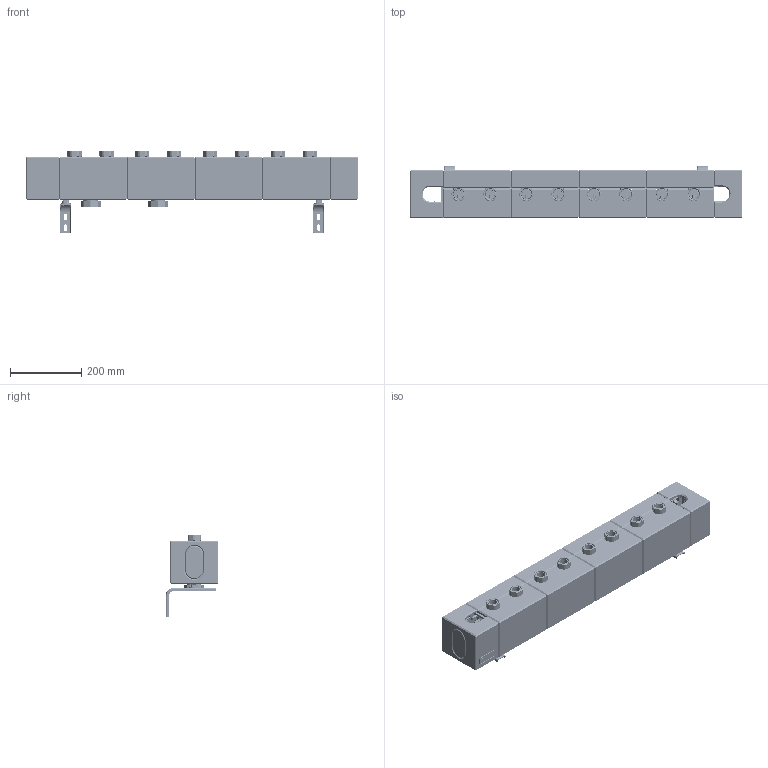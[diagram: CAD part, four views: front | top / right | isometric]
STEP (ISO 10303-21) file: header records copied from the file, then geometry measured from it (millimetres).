
FILE_DESCRIPTION (( 'STEP AP214' ), '1' );
FILE_NAME ('HSM_ProFusion_90-4_Multifunkcyjny_rozdzielacz_79604_0_3D_AFRISO.STEP', '2025-11-18T13:45:04', ( '' ), ( '' ), 'SwSTEP 2.0', 'SolidWorks 2023', '' );
FILE_SCHEMA (( 'AUTOMOTIVE_DESIGN' ));
Length unit declared in the file: millimetre
Products named in the file (43): Translationsteil_0_AEI Logo; 05 01 001272_Segment B-A HSM 90; 05 01 000794_Tr_X_E4gerplatte wei_X_DF LOGO AFRISO; 05 00 52 51_Einsteckstutzen G1 _X_DCM HSM; 05 01 000684_Tr_X_E4gerplatte neutral wei_X_DF (60x2_0); 907380 8020_LKS ISO 7380-2 M8X20; 801 000 0332_O-Ring _X_F826,5x3,0mm EPDM; 05 01 001310_W_X_E4rmed_X_E4mmung HSM 90 3-Teilig; ISO 4032-M8-10_Sechskantmuttern; HSM_ProFusion_90-4_Multifunkcyjny_rozdzielacz_79604_0_3D_AFRISO; 907993 2802_Sprengring DIN7993-A28; 05 01 001286_Einsteckstutzen G1 HSM; 05 01 001285_Einsteckstutzen G1 1_2; 05 01 001312_W_X_E4rmed_X_E4mmung HSM Endkappen; 1748427030; 801 030 3002_O-Ring _X_F830,0x3,0mm EPDM 70_X_B15 pe_rox_2; 05 01 001270_Segment A _ B-A HSM 90; D_X_E4mmung_R_X_FCckseite; Blindeinsatz_Enkappe_2; 907380 8020_LKS ISO 7380-2 M8X20_4; 05_01_000415_MUTTER_G1_1-2; Verteiler HSM 90 4-Fach_Baugruppe; 05 01 001271_Segment B _ B-A HSM 90; 05 00 410237__X_DCberwurfmutter G1 1_2 SW52-8kt MS; 05 01 001272_Segment B-A HSM 90_2; 05 01 001312_D_X_E4mmung_Verteiler_Endkappe_rechts; D_X_E4mmung_Verteiler_Front; ISO 4032-M8-10_Sechskantmuttern_4; Einsteckstutzen prim_X_E4r_Baugruppe_2; Blindeinsatz; Einsteckstutzen prim_X_E4r_Baugruppe; Translationsteil_1; 05 01 001278_Wandhalter HSM; Blindeinsatz_Enkappe; 05 01 001291_Haltewinkel 82x140; 05 01 000938_Absteckfeder _X_D828; 05 01 001287_Absteckfeder _X_D833; 05 01 001312_D_X_E4mmung_Verteiler_Endkappe links; 05 00 350466__X_DCberwurfmutter G1; 801 030 3002_O-Ring _X_F830,0x3,0mm EPDM 70_X_B15 pe_rox
Assembly tree (68 placements, depth 5):
  HSM_ProFusion_90-4_Multifunkcyjny_rozdzielacz_79604_0_3D_AFRISO
    Verteiler HSM 90 4-Fach_Baugruppe
      05 01 001278_Wandhalter HSM  x2
      ISO 4032-M8-10_Sechskantmuttern
      05 01 001291_Haltewinkel 82x140  x2
      05 01 001271_Segment B _ B-A HSM 90
        Einsteckstutzen prim_X_E4r_Baugruppe
          801 030 3002_O-Ring _X_F830,0x3,0mm EPDM 70_X_B15 pe_rox
          05 00 410237__X_DCberwurfmutter G1 1_2 SW52-8kt MS
          05 01 001287_Absteckfeder _X_D833
          05 01 001285_Einsteckstutzen G1 1_2
        05 00 52 51_Einsteckstutzen G1 _X_DCM HSM  x2
          907993 2802_Sprengring DIN7993-A28
          05 00 350466__X_DCberwurfmutter G1
          05 01 001286_Einsteckstutzen G1 HSM
        05 01 000938_Absteckfeder _X_D828  x2
        801 000 0332_O-Ring _X_F826,5x3,0mm EPDM  x2
      05 01 001270_Segment A _ B-A HSM 90
        05 00 52 51_Einsteckstutzen G1 _X_DCM HSM  x2
          907993 2802_Sprengring DIN7993-A28
          05 00 350466__X_DCberwurfmutter G1
          05 01 001286_Einsteckstutzen G1 HSM
        Einsteckstutzen prim_X_E4r_Baugruppe_2
          801 030 3002_O-Ring _X_F830,0x3,0mm EPDM 70_X_B15 pe_rox_2
          05 01 001285_Einsteckstutzen G1 1_2
          05_01_000415_MUTTER_G1_1-2
          05 01 001287_Absteckfeder _X_D833
        801 000 0332_O-Ring _X_F826,5x3,0mm EPDM  x4
        05 01 000938_Absteckfeder _X_D828  x2
      05 01 001272_Segment B-A HSM 90
        05 00 52 51_Einsteckstutzen G1 _X_DCM HSM  x2
          907993 2802_Sprengring DIN7993-A28
          05 00 350466__X_DCberwurfmutter G1
          05 01 001286_Einsteckstutzen G1 HSM
        05 01 000938_Absteckfeder _X_D828  x2
      05 01 001272_Segment B-A HSM 90_2
        05 00 52 51_Einsteckstutzen G1 _X_DCM HSM  x2
          907993 2802_Sprengring DIN7993-A28
          05 00 350466__X_DCberwurfmutter G1
          05 01 001286_Einsteckstutzen G1 HSM
        05 01 000938_Absteckfeder _X_D828  x2
      05 01 001310_W_X_E4rmed_X_E4mmung HSM 90 3-Teilig  x4
        Blindeinsatz
          Blindeinsatz
          1748427030
        D_X_E4mmung_Verteiler_Front
        D_X_E4mmung_R_X_FCckseite
      05 01 001312_W_X_E4rmed_X_E4mmung HSM Endkappen
        05 01 001312_D_X_E4mmung_Verteiler_Endkappe links
          05 01 001312_D_X_E4mmung_Verteiler_Endkappe links
          Blindeinsatz_Enkappe
      05 01 000794_Tr_X_E4gerplatte wei_X_DF LOGO AFRISO
        Translationsteil_0_AEI Logo
        Translationsteil_1
        05 01 000684_Tr_X_E4gerplatte neutral wei_X_DF (60x2_0)
      907380 8020_LKS ISO 7380-2 M8X20
      907380 8020_LKS ISO 7380-2 M8X20_4
      ISO 4032-M8-10_Sechskantmuttern_4
    05 01 001312_D_X_E4mmung_Verteiler_Endkappe_rechts
      05 01 001312_D_X_E4mmung_Verteiler_Endkappe_rechts
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Bounding box: 931 x 147.55 x 231.54 mm (x, y, z)
Volume: 8439356.9 mm3; surface area: 1330443 mm2
Topology: 83 solids, 83 shells, 8274 faces, 21455 edges, 13610 vertices
Faces by surface type: plane 3965, cylinder 2295, bspline 1395, cone 583, torus 36
Entity records: 140018 total; most frequent: CARTESIAN_POINT 53429, ORIENTED_EDGE 18968, DIRECTION 15916, EDGE_CURVE 9484, VERTEX_POINT 6039, VECTOR 5522, LINE 5522, AXIS2_PLACEMENT_3D 5197
